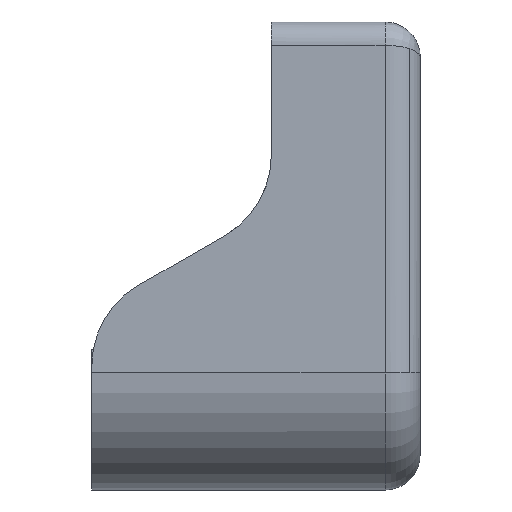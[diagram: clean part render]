
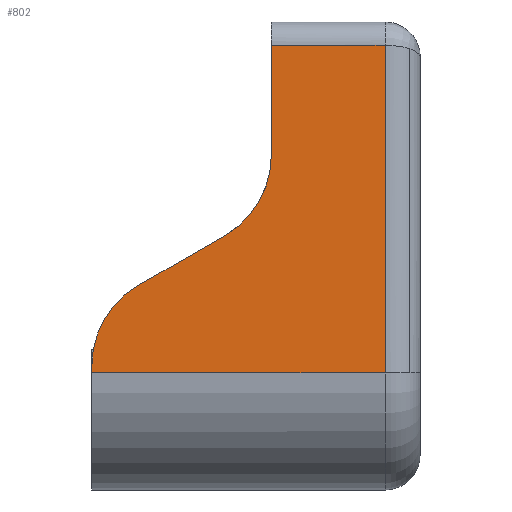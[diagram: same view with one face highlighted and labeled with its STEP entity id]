
A CAD part, left-side view. The second image highlights one B-rep face of the part: STEP entity #802.
In plain terms, the highlighted planar face has unit normal (-1, 0, 0).
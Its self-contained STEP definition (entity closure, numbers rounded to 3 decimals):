
#38 = LINE ( 'NONE', #5657, #157 ) ;
#42 = DIRECTION ( 'NONE',  ( 0., 0.866, -0.5 ) ) ;
#138 = VERTEX_POINT ( 'NONE', #3422 ) ;
#157 = VECTOR ( 'NONE', #5759, 1000. ) ;
#175 = ORIENTED_EDGE ( 'NONE', *, *, #7544, .F. ) ;
#340 = CARTESIAN_POINT ( 'NONE',  ( -95.25, 80.8, 177.8 ) ) ;
#603 = CIRCLE ( 'NONE', #3770, 50. ) ;
#802 = ADVANCED_FACE ( 'NONE', ( #3701 ), #9866, .T. ) ;
#937 = CARTESIAN_POINT ( 'NONE',  ( -95.25, 19.05, -12.7 ) ) ;
#1033 = CARTESIAN_POINT ( 'NONE',  ( -95.25, 105.8, 62.029 ) ) ;
#1227 = LINE ( 'NONE', #340, #9816 ) ;
#1297 = CARTESIAN_POINT ( 'NONE',  ( -95.25, 178.2, 50.8 ) ) ;
#1588 = EDGE_LOOP ( 'NONE', ( #3772, #10310, #175, #2127, #5319, #8615, #4948, #9851 ) ) ;
#1675 = VERTEX_POINT ( 'NONE', #9808 ) ;
#1824 = CIRCLE ( 'NONE', #4974, 50. ) ;
#1886 = CARTESIAN_POINT ( 'NONE',  ( -95.25, 153.2, 34.662 ) ) ;
#1931 = CARTESIAN_POINT ( 'NONE',  ( -95.25, 0., -12.7 ) ) ;
#1967 = CARTESIAN_POINT ( 'NONE',  ( -95.25, 178.2, -12.7 ) ) ;
#1973 = AXIS2_PLACEMENT_3D ( 'NONE', #1931, #4327, #3859 ) ;
#2127 = ORIENTED_EDGE ( 'NONE', *, *, #3340, .F. ) ;
#2181 = EDGE_CURVE ( 'NONE', #9398, #1675, #1227, .T. ) ;
#2262 = DIRECTION ( 'NONE',  ( 0., 0., -1. ) ) ;
#2285 = LINE ( 'NONE', #3113, #6430 ) ;
#2374 = DIRECTION ( 'NONE',  ( 0., 1., 0. ) ) ;
#2976 = VERTEX_POINT ( 'NONE', #1033 ) ;
#3015 = EDGE_CURVE ( 'NONE', #6159, #138, #1824, .T. ) ;
#3086 = VERTEX_POINT ( 'NONE', #1967 ) ;
#3113 = CARTESIAN_POINT ( 'NONE',  ( -95.25, 67.504, 84.139 ) ) ;
#3207 = LINE ( 'NONE', #10307, #9102 ) ;
#3340 = EDGE_CURVE ( 'NONE', #4139, #3086, #38, .T. ) ;
#3422 = CARTESIAN_POINT ( 'NONE',  ( -95.25, 178.2, -8.639 ) ) ;
#3527 = DIRECTION ( 'NONE',  ( 0., 0., -1. ) ) ;
#3578 = CARTESIAN_POINT ( 'NONE',  ( -95.25, 128.2, -8.639 ) ) ;
#3701 = FACE_OUTER_BOUND ( 'NONE', #1588, .T. ) ;
#3750 = LINE ( 'NONE', #1297, #6838 ) ;
#3770 = AXIS2_PLACEMENT_3D ( 'NONE', #3777, #6020, #5230 ) ;
#3772 = ORIENTED_EDGE ( 'NONE', *, *, #5383, .T. ) ;
#3777 = CARTESIAN_POINT ( 'NONE',  ( -95.25, 130.8, 105.33 ) ) ;
#3859 = DIRECTION ( 'NONE',  ( 0., 1., 0. ) ) ;
#4139 = VERTEX_POINT ( 'NONE', #937 ) ;
#4327 = DIRECTION ( 'NONE',  ( -1., 0., 0. ) ) ;
#4748 = CARTESIAN_POINT ( 'NONE',  ( -95.25, 80.8, 165.1 ) ) ;
#4948 = ORIENTED_EDGE ( 'NONE', *, *, #2181, .T. ) ;
#4974 = AXIS2_PLACEMENT_3D ( 'NONE', #3578, #9261, #5971 ) ;
#5230 = DIRECTION ( 'NONE',  ( 0., 0., 1. ) ) ;
#5319 = ORIENTED_EDGE ( 'NONE', *, *, #7308, .F. ) ;
#5383 = EDGE_CURVE ( 'NONE', #2976, #6159, #2285, .T. ) ;
#5595 = LINE ( 'NONE', #9617, #8190 ) ;
#5656 = VERTEX_POINT ( 'NONE', #10248 ) ;
#5657 = CARTESIAN_POINT ( 'NONE',  ( -95.25, 0., -12.7 ) ) ;
#5759 = DIRECTION ( 'NONE',  ( 0., 1., 0. ) ) ;
#5971 = DIRECTION ( 'NONE',  ( 0., 0., 1. ) ) ;
#6020 = DIRECTION ( 'NONE',  ( 1., 0., 0. ) ) ;
#6159 = VERTEX_POINT ( 'NONE', #1886 ) ;
#6430 = VECTOR ( 'NONE', #42, 1000. ) ;
#6498 = EDGE_CURVE ( 'NONE', #1675, #2976, #603, .T. ) ;
#6733 = EDGE_CURVE ( 'NONE', #5656, #9398, #3207, .T. ) ;
#6838 = VECTOR ( 'NONE', #6927, 1000. ) ;
#6927 = DIRECTION ( 'NONE',  ( 0., 0., 1. ) ) ;
#7308 = EDGE_CURVE ( 'NONE', #5656, #4139, #5595, .T. ) ;
#7544 = EDGE_CURVE ( 'NONE', #3086, #138, #3750, .T. ) ;
#8190 = VECTOR ( 'NONE', #2262, 1000. ) ;
#8615 = ORIENTED_EDGE ( 'NONE', *, *, #6733, .T. ) ;
#9102 = VECTOR ( 'NONE', #2374, 1000. ) ;
#9261 = DIRECTION ( 'NONE',  ( -1., 0., 0. ) ) ;
#9398 = VERTEX_POINT ( 'NONE', #4748 ) ;
#9617 = CARTESIAN_POINT ( 'NONE',  ( -95.25, 19.05, 19.05 ) ) ;
#9808 = CARTESIAN_POINT ( 'NONE',  ( -95.25, 80.8, 105.33 ) ) ;
#9816 = VECTOR ( 'NONE', #3527, 1000. ) ;
#9851 = ORIENTED_EDGE ( 'NONE', *, *, #6498, .T. ) ;
#9866 = PLANE ( 'NONE',  #1973 ) ;
#10248 = CARTESIAN_POINT ( 'NONE',  ( -95.25, 19.05, 165.1 ) ) ;
#10307 = CARTESIAN_POINT ( 'NONE',  ( -95.25, 0., 165.1 ) ) ;
#10310 = ORIENTED_EDGE ( 'NONE', *, *, #3015, .T. ) ;
